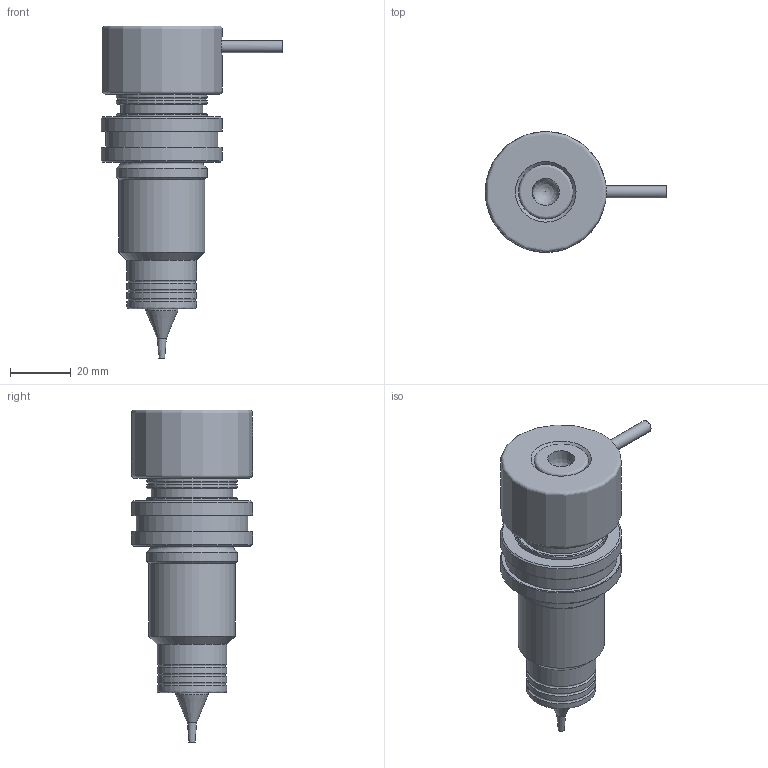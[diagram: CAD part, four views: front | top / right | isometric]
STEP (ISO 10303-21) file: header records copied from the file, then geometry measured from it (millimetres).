
FILE_DESCRIPTION(('STEP AP214'),'1');
FILE_NAME('IPM300-A.stp','2018-06-12T15:24:04',(' '),(' '),'Spatial InterOp 3D',' ',' ');
FILE_SCHEMA(('AUTOMOTIVE_DESIGN { 1 0 10303 214 1 1 1 1 }'));
Length unit declared in the file: millimetre
Products named in the file (1): 1
Bounding box: 60 x 40 x 109.75 mm (x, y, z)
Volume: 65349.3 mm3; surface area: 28945.8 mm2
Topology: 4 solids, 4 shells, 84 faces, 156 edges, 89 vertices
Faces by surface type: cylinder 25, cone 24, plane 18, revolution 11, torus 5, bspline 1
Full cylindrical faces by diameter (mm): 4 x1, 4.55 x1, 6 x1, 6.6 x1, 7 x1, 7.01 x1, 10.7 x1, 10.72 x1, 22 x2, 23 x3, 27 x1, 28.5 x1, 29.4 x1, 30 x6, 37 x1, 40 x2
Entity records: 2852 total; most frequent: CARTESIAN_POINT 729, DIRECTION 321, ORIENTED_EDGE 170, EDGE_LOOP 166, AXIS2_PLACEMENT_3D 155, FACE_OUTER_BOUND 125, VERTEX_POINT 87, EDGE_CURVE 85
